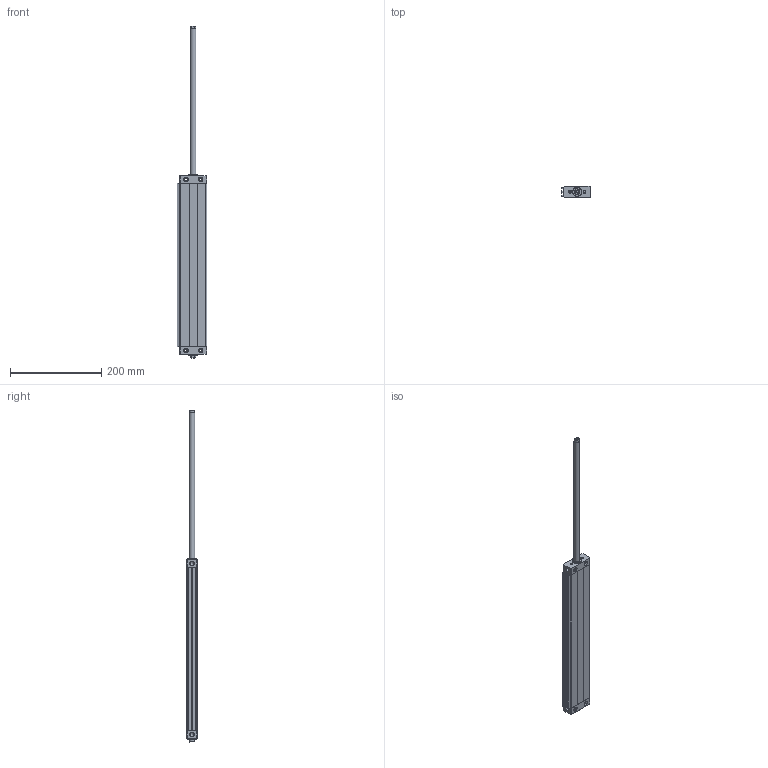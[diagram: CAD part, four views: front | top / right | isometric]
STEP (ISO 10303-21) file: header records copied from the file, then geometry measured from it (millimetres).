
FILE_DESCRIPTION((''),'2;1');
FILE_NAME('I:\Area Tecnica\Disegni\VARIE-3D\Componenti\1370 - CPO\1370_##_0000_03\1370_32_0320_03-01.iam.step','2010-12-16T10:55:57',(''),(''),'Autodesk Inventor 2011','Autodesk Inventor 2011','');
FILE_SCHEMA(('AUTOMOTIVE_DESIGN { 1 0 10303 214 1 1 1 1 }'));
Length unit declared in the file: millimetre
Products named in the file (5): 1370_32_0320_03-01; 1370_05_32_0000; 1370_06_32_0320; 1370_08_32_0000; 1370_3_32_0320
Assembly tree (4 placements, depth 2):
  1370_32_0320_03-01
    1370_05_32_0000
    1370_06_32_0320
    1370_08_32_0000
    1370_3_32_0320
Bounding box: 65.5 x 24 x 728 mm (x, y, z)
Volume: 360653.2 mm3; surface area: 163890.2 mm2
Topology: 4 solids, 4 shells, 164 faces, 392 edges, 250 vertices
Faces by surface type: plane 92, cylinder 48, cone 24
Full cylindrical faces by diameter (mm): 5 x12, 6.3 x2, 8.7 x2, 10 x8, 11.5 x2, 12 x4, 20 x2
Entity records: 4780 total; most frequent: DIRECTION 792, CARTESIAN_POINT 787, ORIENTED_EDGE 660, EDGE_CURVE 330, AXIS2_PLACEMENT_3D 297, EDGE_LOOP 252, VERTEX_POINT 240, VECTOR 198
